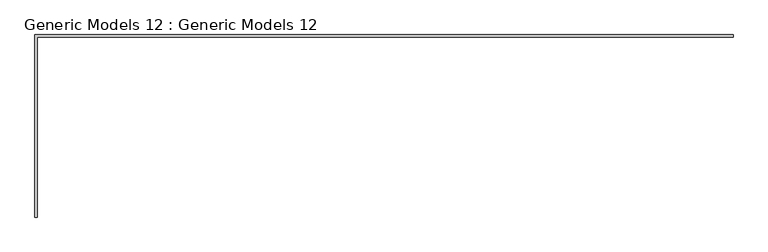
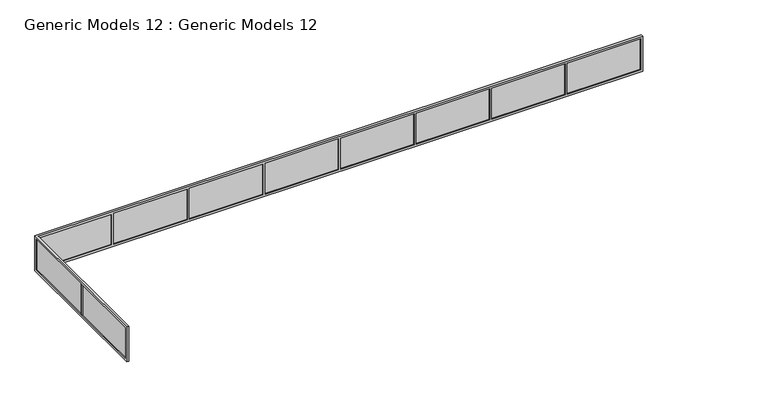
"""IFC4 building model written with IfcOpenShell, lengths in millimetres: proxy geometry, Generic Models 12 : Generic Models 12."""

from ifc_helpers import new_model, si_unit, frame, origin, place, context, project, spatial, polyline, outline, extrude, faceted_brep, source, transform, mapped, element, save


def generic_models_12_generic_models_12_f9357410(model_context):
    return source(origin(), model_context, "Body", "SolidModel", [
        extrude(outline(polyline([(11242.8362243, -10467.510306), (11247.8362243, -10467.510306), (11247.8362243, -12188.6644727), (11242.8362243, -12188.6644727), (11242.8362243, -10467.510306)])), frame((0.0, 0.0, 2350.0), z_axis=(0.0, 0.0, 1.0), x_axis=(1.0, 0.0, 0.0)), (0.0, 0.0, 1.0), 750.0),
        extrude(outline(polyline([(11242.8362243, -8646.3561394), (11247.8362243, -8646.3561394), (11247.8362243, -10417.510306), (11242.8362243, -10417.510306), (11242.8362243, -8646.3561394)])), frame((0.0, 0.0, 2350.0), z_axis=(0.0, 0.0, 1.0), x_axis=(1.0, 0.0, 0.0)), (0.0, 0.0, 1.0), 750.0),
        extrude(outline(polyline([(11270.3362243, -8623.8561394), (11270.3362243, -8618.8561394), (12955.3362243, -8618.8561394), (12955.3362243, -8623.8561394), (11270.3362243, -8623.8561394)])), frame((0.0, 0.0, 2350.0), z_axis=(0.0, 0.0, 1.0), x_axis=(1.0, 0.0, 0.0)), (0.0, 0.0, 1.0), 750.0),
        extrude(outline(polyline([(13005.3362243, -8623.8561394), (13005.3362243, -8618.8561394), (14690.3362243, -8618.8561394), (14690.3362243, -8623.8561394), (13005.3362243, -8623.8561394)])), frame((0.0, 0.0, 2350.0), z_axis=(0.0, 0.0, 1.0), x_axis=(1.0, 0.0, 0.0)), (0.0, 0.0, 1.0), 750.0),
        extrude(outline(polyline([(14740.3362243, -8623.8561394), (14740.3362243, -8618.8561394), (16425.3362243, -8618.8561394), (16425.3362243, -8623.8561394), (14740.3362243, -8623.8561394)])), frame((0.0, 0.0, 2350.0), z_axis=(0.0, 0.0, 1.0), x_axis=(1.0, 0.0, 0.0)), (0.0, 0.0, 1.0), 750.0),
        extrude(outline(polyline([(16475.3362243, -8623.8561394), (16475.3362243, -8618.8561394), (18160.3362243, -8618.8561394), (18160.3362243, -8623.8561394), (16475.3362243, -8623.8561394)])), frame((0.0, 0.0, 2350.0), z_axis=(0.0, 0.0, 1.0), x_axis=(1.0, 0.0, 0.0)), (0.0, 0.0, 1.0), 750.0),
        extrude(outline(polyline([(18210.3362243, -8623.8561394), (18210.3362243, -8618.8561394), (19895.3362243, -8618.8561394), (19895.3362243, -8623.8561394), (18210.3362243, -8623.8561394)])), frame((0.0, 0.0, 2350.0), z_axis=(0.0, 0.0, 1.0), x_axis=(1.0, 0.0, 0.0)), (0.0, 0.0, 1.0), 750.0),
        extrude(outline(polyline([(19945.3362243, -8623.8561394), (19945.3362243, -8618.8561394), (21630.3362243, -8618.8561394), (21630.3362243, -8623.8561394), (19945.3362243, -8623.8561394)])), frame((0.0, 0.0, 2350.0), z_axis=(0.0, 0.0, 1.0), x_axis=(1.0, 0.0, 0.0)), (0.0, 0.0, 1.0), 750.0),
        extrude(outline(polyline([(21680.3362243, -8623.8561394), (21680.3362243, -8618.8561394), (23365.3362243, -8618.8561394), (23365.3362243, -8623.8561394), (21680.3362243, -8623.8561394)])), frame((0.0, 0.0, 2350.0), z_axis=(0.0, 0.0, 1.0), x_axis=(1.0, 0.0, 0.0)), (0.0, 0.0, 1.0), 750.0),
        extrude(outline(polyline([(23415.3362243, -8623.8561394), (23415.3362243, -8618.8561394), (25095.3362243, -8618.8561394), (25095.3362243, -8623.8561394), (23415.3362243, -8623.8561394)])), frame((0.0, 0.0, 2350.0), z_axis=(0.0, 0.0, 1.0), x_axis=(1.0, 0.0, 0.0)), (0.0, 0.0, 1.0), 750.0),
        faceted_brep([(11220.3362243, -12238.6644727, 2300.0), (11270.3362243, -12238.6644727, 2300.0), (11270.3362243, -12238.6644727, 3150.0), (11220.3362243, -12238.6644727, 3150.0), (11220.3362243, -8596.3561394, 3150.0), (11220.3362243, -8596.3561394, 2300.0), (11220.3362243, -8646.3561394, 2350.0), (11220.3362243, -8646.3561394, 3100.0), (11220.3362243, -10417.510306, 3100.0), (11220.3362243, -10417.510306, 2350.0), (11220.3362243, -10467.510306, 2350.0), (11220.3362243, -10467.510306, 3100.0), (11220.3362243, -12188.6644727, 3100.0), (11220.3362243, -12188.6644727, 2350.0), (25145.3362243, -8596.3561394, 2300.0), (25145.3362243, -8646.3561394, 2300.0), (11270.3362243, -8646.3561394, 2300.0), (11235.3362243, -8611.3561394, 2300.0), (11235.3362243, -12223.6644727, 2300.0), (11255.3362243, -12223.6644727, 2300.0), (11255.3362243, -8631.3561394, 2300.0), (25130.3362243, -8631.3561394, 2300.0), (25130.3362243, -8611.3561394, 2300.0), (11270.3362243, -8646.3561394, 2350.0), (11270.3362243, -10417.510306, 2350.0), (11270.3362243, -10417.510306, 3100.0), (11270.3362243, -8646.3561394, 3100.0), (11270.3362243, -8646.3561394, 3150.0), (11270.3362243, -12188.6644727, 2350.0), (11270.3362243, -12188.6644727, 3100.0), (11270.3362243, -10467.510306, 3100.0), (11270.3362243, -10467.510306, 2350.0), (12955.3362243, -8646.3561394, 2350.0), (12955.3362243, -8596.3561394, 2350.0), (11270.3362243, -8596.3561394, 2350.0), (13005.3362243, -8646.3561394, 2350.0), (14690.3362243, -8646.3561394, 2350.0), (14690.3362243, -8596.3561394, 2350.0), (13005.3362243, -8596.3561394, 2350.0), (14740.3362243, -8646.3561394, 2350.0), (16425.3362243, -8646.3561394, 2350.0), (16425.3362243, -8596.3561394, 2350.0), (14740.3362243, -8596.3561394, 2350.0), (16475.3362243, -8646.3561394, 2350.0), (18160.3362243, -8646.3561394, 2350.0), (18160.3362243, -8596.3561394, 2350.0), (16475.3362243, -8596.3561394, 2350.0), (18210.3362243, -8646.3561394, 2350.0), (19895.3362243, -8646.3561394, 2350.0), (19895.3362243, -8596.3561394, 2350.0), (18210.3362243, -8596.3561394, 2350.0), (19945.3362243, -8646.3561394, 2350.0), (21630.3362243, -8646.3561394, 2350.0), (21630.3362243, -8596.3561394, 2350.0), (19945.3362243, -8596.3561394, 2350.0), (21680.3362243, -8646.3561394, 2350.0), (23365.3362243, -8646.3561394, 2350.0), (23365.3362243, -8596.3561394, 2350.0), (21680.3362243, -8596.3561394, 2350.0), (23415.3362243, -8646.3561394, 2350.0), (25095.3362243, -8646.3561394, 2350.0), (25095.3362243, -8596.3561394, 2350.0), (23415.3362243, -8596.3561394, 2350.0), (11270.3362243, -8596.3561394, 3100.0), (12955.3362243, -8596.3561394, 3100.0), (12955.3362243, -8646.3561394, 3100.0), (13005.3362243, -8596.3561394, 3100.0), (14690.3362243, -8596.3561394, 3100.0), (14690.3362243, -8646.3561394, 3100.0), (13005.3362243, -8646.3561394, 3100.0), (14740.3362243, -8596.3561394, 3100.0), (16425.3362243, -8596.3561394, 3100.0), (16425.3362243, -8646.3561394, 3100.0), (14740.3362243, -8646.3561394, 3100.0), (16475.3362243, -8596.3561394, 3100.0), (18160.3362243, -8596.3561394, 3100.0), (18160.3362243, -8646.3561394, 3100.0), (16475.3362243, -8646.3561394, 3100.0), (18210.3362243, -8596.3561394, 3100.0), (19895.3362243, -8596.3561394, 3100.0), (19895.3362243, -8646.3561394, 3100.0), (18210.3362243, -8646.3561394, 3100.0), (19945.3362243, -8596.3561394, 3100.0), (21630.3362243, -8596.3561394, 3100.0), (21630.3362243, -8646.3561394, 3100.0), (19945.3362243, -8646.3561394, 3100.0), (21680.3362243, -8596.3561394, 3100.0), (23365.3362243, -8596.3561394, 3100.0), (23365.3362243, -8646.3561394, 3100.0), (21680.3362243, -8646.3561394, 3100.0), (23415.3362243, -8596.3561394, 3100.0), (25095.3362243, -8596.3561394, 3100.0), (25095.3362243, -8646.3561394, 3100.0), (23415.3362243, -8646.3561394, 3100.0), (25145.3362243, -8646.3561394, 3150.0), (25145.3362243, -8596.3561394, 3150.0), (11235.3362243, -8611.3561394, 2305.0), (25130.3362243, -8611.3561394, 2305.0), (25130.3362243, -8631.3561394, 2305.0), (11255.3362243, -8631.3561394, 2305.0), (11255.3362243, -12223.6644727, 2305.0), (11235.3362243, -12223.6644727, 2305.0)], [[[0, 1, 2, 3]], [[0, 3, 4, 5], [6, 7, 8, 9], [10, 11, 12, 13]], [[1, 0, 5, 14, 15, 16], [17, 18, 19, 20, 21, 22]], [[2, 1, 16, 23, 24, 25, 26, 27], [28, 29, 30, 31]], [[6, 9, 24, 23]], [[10, 13, 28, 31]], [[23, 32, 33, 34]], [[35, 36, 37, 38]], [[39, 40, 41, 42]], [[43, 44, 45, 46]], [[47, 48, 49, 50]], [[51, 52, 53, 54]], [[55, 56, 57, 58]], [[59, 60, 61, 62]], [[8, 7, 26, 25]], [[12, 11, 30, 29]], [[63, 64, 65, 26]], [[66, 67, 68, 69]], [[70, 71, 72, 73]], [[74, 75, 76, 77]], [[78, 79, 80, 81]], [[82, 83, 84, 85]], [[86, 87, 88, 89]], [[90, 91, 92, 93]], [[3, 2, 27, 94, 95, 4]], [[15, 14, 95, 94]], [[5, 4, 95, 14], [33, 64, 63, 34], [37, 67, 66, 38], [41, 71, 70, 42], [45, 75, 74, 46], [49, 79, 78, 50], [53, 83, 82, 54], [57, 87, 86, 58], [61, 91, 90, 62]], [[16, 15, 94, 27, 26, 65, 32, 23], [35, 69, 68, 36], [39, 73, 72, 40], [43, 77, 76, 44], [47, 81, 80, 48], [51, 85, 84, 52], [55, 89, 88, 56], [59, 93, 92, 60]], [[96, 97, 98, 99, 100, 101]], [[96, 101, 18, 17]], [[101, 100, 19, 18]], [[100, 99, 20, 19]], [[99, 98, 21, 20]], [[98, 97, 22, 21]], [[97, 96, 17, 22]], [[7, 6, 23, 26]], [[34, 63, 26, 23]], [[29, 28, 13, 12]], [[25, 24, 9, 8]], [[11, 10, 31, 30]], [[64, 33, 32, 65]], [[38, 66, 69, 35]], [[67, 37, 36, 68]], [[42, 70, 73, 39]], [[71, 41, 40, 72]], [[46, 74, 77, 43]], [[75, 45, 44, 76]], [[50, 78, 81, 47]], [[79, 49, 48, 80]], [[54, 82, 85, 51]], [[83, 53, 52, 84]], [[58, 86, 89, 55]], [[87, 57, 56, 88]], [[62, 90, 93, 59]], [[91, 61, 60, 92]]]),
    ])


if __name__ == "__main__":
    model = new_model("IFC4")
    model_context = context("Model", 3, world=origin())
    ifc_project = project(units=[si_unit("LENGTHUNIT", "METRE", prefix="MILLI")], contexts=[model_context])
    site = spatial("IfcSite", under=ifc_project)
    building = spatial("IfcBuilding", under=site)
    placement = place(None, origin())
    generic_models_12_generic_models_12_shape = generic_models_12_generic_models_12_f9357410(model_context)
    element("IfcBuildingElementProxy", 1, Name="Generic Models 12 : Generic Models 12", ObjectType="Generic Models 12 : Generic Models 12", at=placement, inside=building, context=model_context, shape_type="MappedRepresentation", body=[
        mapped(generic_models_12_generic_models_12_shape, transform((0.0, 0.0, 0.0), x_axis=(1.0, 0.0, 0.0), y_axis=(0.0, 1.0, 0.0), z_axis=(0.0, 0.0, 1.0))),
    ])
    save(model, "model.ifc")
